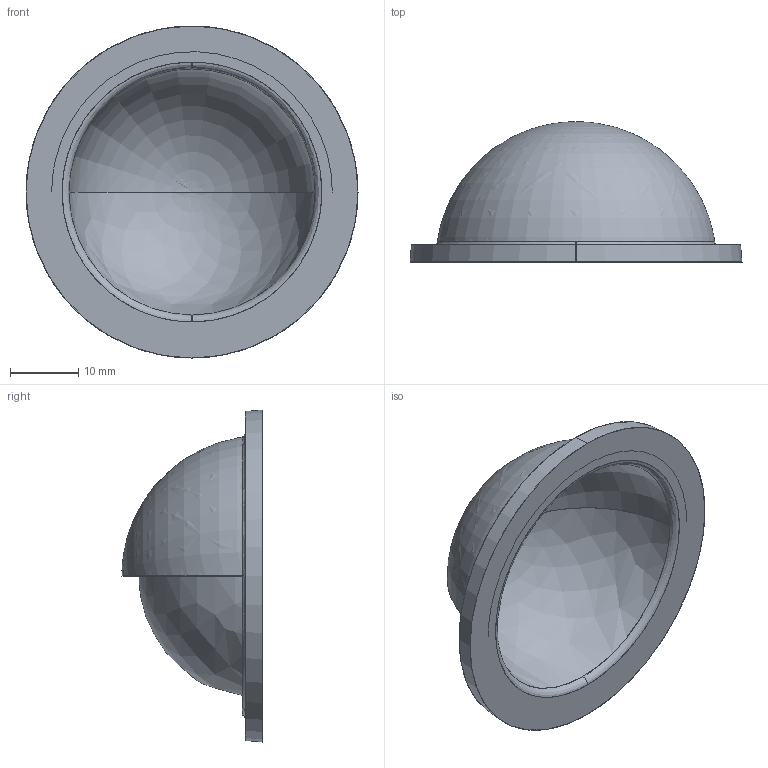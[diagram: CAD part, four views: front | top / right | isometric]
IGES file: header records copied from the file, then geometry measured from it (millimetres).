
Start section: SolidWorks IGES file using analytic representation for surfaces
Global section: file name: C:\Users\Achilles\Dropbox\BR-Engineering\PROJECTS\WTE2\MODELS\DEVELOPMENT\WTE2-P-DOME-R1\WTE2-P-DOME-R1.IGS; native system: SolidWorks 2016; preprocessor: SolidWorks 2016; author: Achilles; date: 181016.154937; units: millimetre
Bounding box: 48.5 x 20.5 x 48.5 mm (x, y, z)
Surface area: 6188.1 mm2 (no closed solid volume)
Topology: 0 solids, 0 shells, 12 faces, 304 edges, 302 vertices
Faces by surface type: bspline 6, revolution 6
